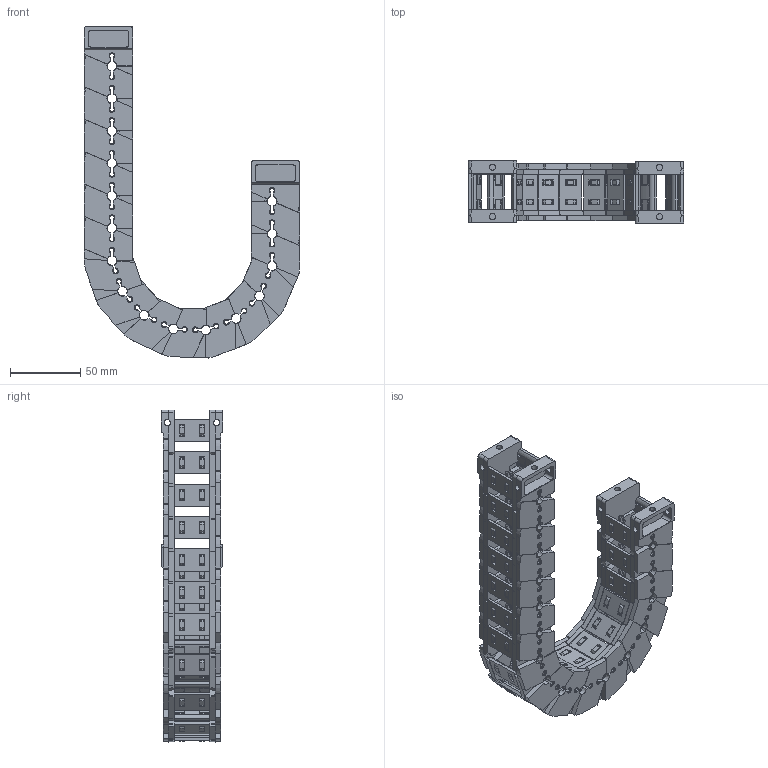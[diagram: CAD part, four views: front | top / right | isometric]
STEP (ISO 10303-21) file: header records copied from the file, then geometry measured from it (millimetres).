
FILE_DESCRIPTION((''),'2;1');
FILE_NAME('JY-28X25-R55_ASM','2026-03-26T08:08:46',('admin'),(''),'CREO PARAMETRIC BY PTC INC, 2021023','CREO PARAMETRIC BY PTC INC, 2021023','');
FILE_SCHEMA(('CONFIG_CONTROL_DESIGN'));
Length unit declared in the file: millimetre
Products named in the file (11): 28XL-L; 25-35XL-YP; 28XL-R; ASM0001_ASM; 28-LTT-A-L; 28-LTT-A-R; 28XL-LTT-A_ASM; 28-LTT-B-L; 28-LTT-B-R; 28XL-LTT-B_ASM; JY-28X25-R55_ASM
Assembly tree (29 placements, depth 3):
  JY-28X25-R55_ASM
    ASM0001_ASM  x15
      28XL-L
      25-35XL-YP
      28XL-R
    28XL-LTT-A_ASM
      28-LTT-A-L
      25-35XL-YP  x2
      28-LTT-A-R
    28XL-LTT-B_ASM
      28-LTT-B-L
      25-35XL-YP  x2
      28-LTT-B-R
Bounding box: 153.11 x 44 x 235.62 mm (x, y, z)
Volume: 213911.5 mm3; surface area: 157861.5 mm2
Topology: 68 solids, 68 shells, 5486 faces, 16300 edges, 10882 vertices
Faces by surface type: plane 3597, cone 973, cylinder 796, bspline 120
Entity records: 29071 total; most frequent: CARTESIAN_POINT 9487, ORIENTED_EDGE 4352, DIRECTION 3649, EDGE_CURVE 2176, VERTEX_POINT 1454, VECTOR 1365, LINE 1365, AXIS2_PLACEMENT_3D 1142
